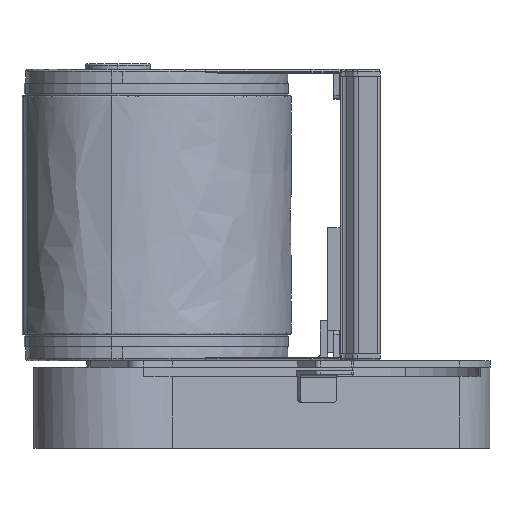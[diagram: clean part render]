
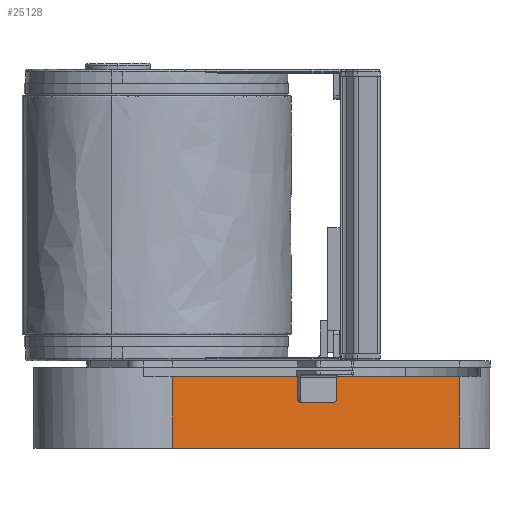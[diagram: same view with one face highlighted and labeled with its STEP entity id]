
A CAD part, left-side view. The second image highlights one B-rep face of the part: STEP entity #25128.
In plain terms, the highlighted planar face has unit normal (-0.766, -0.643, 0).
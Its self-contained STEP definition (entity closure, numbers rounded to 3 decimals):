
#42 = CARTESIAN_POINT ( 'NONE',  ( -51.705, -43.392, -129. ) ) ;
#58 = VERTEX_POINT ( 'NONE', #42 ) ;
#1422 = EDGE_CURVE ( 'NONE', #23844, #2868, #10501, .T. ) ;
#1566 = CARTESIAN_POINT ( 'NONE',  ( 32.5, -143.744, -129. ) ) ;
#1750 = EDGE_CURVE ( 'NONE', #6126, #14865, #8246, .T. ) ;
#2868 = VERTEX_POINT ( 'NONE', #18493 ) ;
#2949 = CARTESIAN_POINT ( 'NONE',  ( -51.705, -43.392, -129. ) ) ;
#3062 = DIRECTION ( 'NONE',  ( 0., 0., 1. ) ) ;
#3255 = LINE ( 'NONE', #18077, #21954 ) ;
#3578 = EDGE_CURVE ( 'NONE', #17566, #14865, #26025, .T. ) ;
#3656 = DIRECTION ( 'NONE',  ( 0., 0., -1. ) ) ;
#5895 = VECTOR ( 'NONE', #3656, 1000. ) ;
#6126 = VERTEX_POINT ( 'NONE', #19531 ) ;
#6317 = VERTEX_POINT ( 'NONE', #8441 ) ;
#6824 = DIRECTION ( 'NONE',  ( 0., 0., -1. ) ) ;
#7873 = ORIENTED_EDGE ( 'NONE', *, *, #17976, .T. ) ;
#8073 = VERTEX_POINT ( 'NONE', #22768 ) ;
#8246 = LINE ( 'NONE', #29372, #22085 ) ;
#8262 = ORIENTED_EDGE ( 'NONE', *, *, #24551, .F. ) ;
#8441 = CARTESIAN_POINT ( 'NONE',  ( 32.5, -143.744, -129. ) ) ;
#8607 = ORIENTED_EDGE ( 'NONE', *, *, #25014, .T. ) ;
#9022 = CARTESIAN_POINT ( 'NONE',  ( 56.925, -172.854, -129. ) ) ;
#9211 = CARTESIAN_POINT ( 'NONE',  ( -51.705, -43.392, -186.5 ) ) ;
#9886 = AXIS2_PLACEMENT_3D ( 'NONE', #13040, #20269, #20374 ) ;
#9888 = ORIENTED_EDGE ( 'NONE', *, *, #1422, .T. ) ;
#10182 = DIRECTION ( 'NONE',  ( 0.643, -0.766, 0. ) ) ;
#10370 = DIRECTION ( 'NONE',  ( -0.643, 0.766, 0. ) ) ;
#10501 = CIRCLE ( 'NONE', #30225, 2.5 ) ;
#10876 = CIRCLE ( 'NONE', #9886, 2.5 ) ;
#10943 = DIRECTION ( 'NONE',  ( 0.643, -0.766, 0. ) ) ;
#11325 = CARTESIAN_POINT ( 'NONE',  ( 56.925, -172.854, -147. ) ) ;
#11360 = CARTESIAN_POINT ( 'NONE',  ( -51.705, -43.392, -129. ) ) ;
#11692 = FACE_OUTER_BOUND ( 'NONE', #21302, .T. ) ;
#12436 = VECTOR ( 'NONE', #6824, 1000. ) ;
#12955 = DIRECTION ( 'NONE',  ( 0.766, 0.643, 0. ) ) ;
#13040 = CARTESIAN_POINT ( 'NONE',  ( 55.319, -170.939, -147. ) ) ;
#13293 = CARTESIAN_POINT ( 'NONE',  ( 141.13, -273.206, -129. ) ) ;
#13924 = EDGE_CURVE ( 'NONE', #58, #6317, #20155, .T. ) ;
#14136 = CARTESIAN_POINT ( 'NONE',  ( 56.925, -172.854, -129. ) ) ;
#14164 = EDGE_CURVE ( 'NONE', #6317, #2868, #29917, .T. ) ;
#14348 = EDGE_CURVE ( 'NONE', #6126, #8073, #29948, .T. ) ;
#14501 = ORIENTED_EDGE ( 'NONE', *, *, #28238, .F. ) ;
#14555 = CARTESIAN_POINT ( 'NONE',  ( -51.705, -43.392, -186.5 ) ) ;
#14666 = DIRECTION ( 'NONE',  ( -0.643, 0.766, 0. ) ) ;
#14865 = VERTEX_POINT ( 'NONE', #13293 ) ;
#15092 = ORIENTED_EDGE ( 'NONE', *, *, #14348, .F. ) ;
#15564 = ORIENTED_EDGE ( 'NONE', *, *, #1750, .T. ) ;
#15772 = DIRECTION ( 'NONE',  ( 0.643, -0.766, 0. ) ) ;
#17566 = VERTEX_POINT ( 'NONE', #9022 ) ;
#17819 = CARTESIAN_POINT ( 'NONE',  ( 55.319, -170.939, -149.5 ) ) ;
#17976 = EDGE_CURVE ( 'NONE', #29595, #30858, #10876, .T. ) ;
#18077 = CARTESIAN_POINT ( 'NONE',  ( 32.5, -143.744, -149.5 ) ) ;
#18221 = ORIENTED_EDGE ( 'NONE', *, *, #13924, .F. ) ;
#18441 = ORIENTED_EDGE ( 'NONE', *, *, #3578, .F. ) ;
#18493 = CARTESIAN_POINT ( 'NONE',  ( 32.5, -143.744, -147. ) ) ;
#18699 = ORIENTED_EDGE ( 'NONE', *, *, #14164, .F. ) ;
#19479 = DIRECTION ( 'NONE',  ( 0.766, 0.643, 0. ) ) ;
#19531 = CARTESIAN_POINT ( 'NONE',  ( 141.13, -273.206, -186.5 ) ) ;
#20155 = LINE ( 'NONE', #2949, #30687 ) ;
#20269 = DIRECTION ( 'NONE',  ( 0.766, 0.643, 0. ) ) ;
#20374 = DIRECTION ( 'NONE',  ( -0.643, 0.766, 0. ) ) ;
#21302 = EDGE_LOOP ( 'NONE', ( #14501, #9888, #18699, #18221, #8262, #15092, #15564, #18441, #8607, #7873 ) ) ;
#21889 = VECTOR ( 'NONE', #23187, 1000. ) ;
#21954 = VECTOR ( 'NONE', #15772, 1000. ) ;
#22085 = VECTOR ( 'NONE', #3062, 1000. ) ;
#22282 = VECTOR ( 'NONE', #10943, 1000. ) ;
#22345 = AXIS2_PLACEMENT_3D ( 'NONE', #14555, #19479, #14666 ) ;
#22622 = LINE ( 'NONE', #30245, #21889 ) ;
#22768 = CARTESIAN_POINT ( 'NONE',  ( -51.705, -43.392, -186.5 ) ) ;
#23187 = DIRECTION ( 'NONE',  ( 0., 0., 1. ) ) ;
#23844 = VERTEX_POINT ( 'NONE', #29612 ) ;
#24551 = EDGE_CURVE ( 'NONE', #8073, #58, #22622, .T. ) ;
#25014 = EDGE_CURVE ( 'NONE', #17566, #29595, #30092, .T. ) ;
#25128 = ADVANCED_FACE ( 'NONE', ( #11692 ), #26305, .F. ) ;
#25923 = DIRECTION ( 'NONE',  ( -0.643, 0.766, 0. ) ) ;
#26025 = LINE ( 'NONE', #11360, #22282 ) ;
#26305 = PLANE ( 'NONE',  #22345 ) ;
#28238 = EDGE_CURVE ( 'NONE', #23844, #30858, #3255, .T. ) ;
#29372 = CARTESIAN_POINT ( 'NONE',  ( 141.13, -273.206, -186.5 ) ) ;
#29595 = VERTEX_POINT ( 'NONE', #11325 ) ;
#29612 = CARTESIAN_POINT ( 'NONE',  ( 34.107, -145.659, -149.5 ) ) ;
#29756 = CARTESIAN_POINT ( 'NONE',  ( 34.107, -145.659, -147. ) ) ;
#29917 = LINE ( 'NONE', #1566, #5895 ) ;
#29948 = LINE ( 'NONE', #9211, #30722 ) ;
#30092 = LINE ( 'NONE', #14136, #12436 ) ;
#30225 = AXIS2_PLACEMENT_3D ( 'NONE', #29756, #12955, #10370 ) ;
#30245 = CARTESIAN_POINT ( 'NONE',  ( -51.705, -43.392, -186.5 ) ) ;
#30687 = VECTOR ( 'NONE', #10182, 1000. ) ;
#30722 = VECTOR ( 'NONE', #25923, 1000. ) ;
#30858 = VERTEX_POINT ( 'NONE', #17819 ) ;
